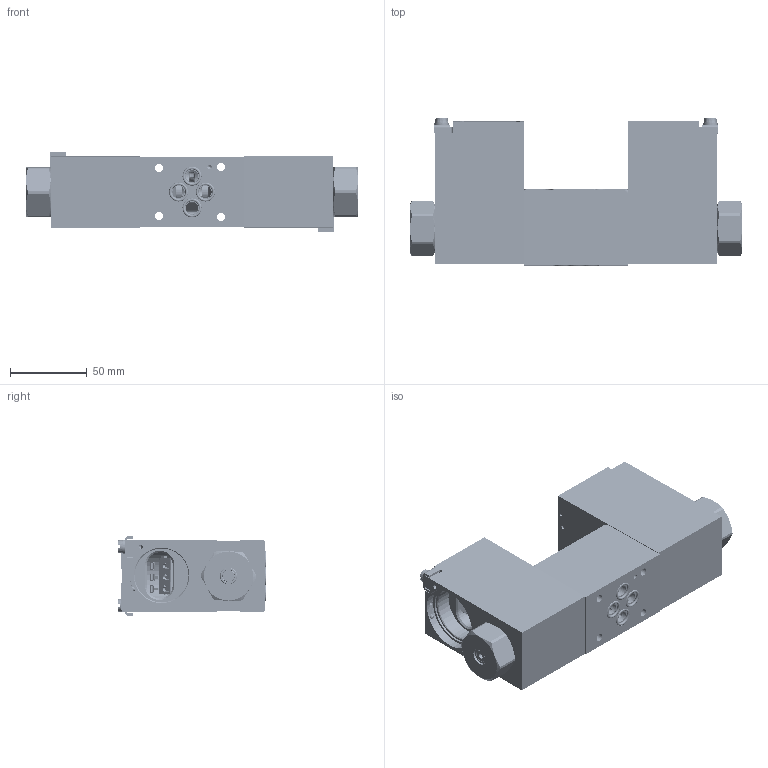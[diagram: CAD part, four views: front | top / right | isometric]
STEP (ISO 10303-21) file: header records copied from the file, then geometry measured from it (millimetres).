
FILE_DESCRIPTION((''),'2;1');
FILE_NAME('30107600_ASM','2023-10-05T',('l.soukupova'),(''),'PRO/ENGINEER BY PARAMETRIC TECHNOLOGY CORPORATION, 2015440','PRO/ENGINEER BY PARAMETRIC TECHNOLOGY CORPORATION, 2015440','');
FILE_SCHEMA(('AUTOMOTIVE_DESIGN { 1 0 10303 214 1 1 1 1 }'));
Products named in the file (60): 31273000; 28420400; 28437100; 28436700_ASM; 28420500; 28436900; 28432000_AF0; 18216900_AF0; 28443101; 28432000_AF1; 18216900_AF1; ORAR00012_201524_AF0; ORAR00012_201524_AF1; STITEK_67X43_CERVENY; DIN_472_15_FST_AF1; ORAR00017_201305_AF0; ORAR00017_201305_AF1; DIN_472_15_FST; 936_7791_AF36; 936_7801_SEST_AF1; 28458501_AF35; 20509500_SEST; 28458600_OBROBENA_AF5_ASM; 936_4660_OS; 1000071334_AF0; 28715800_2_DRAZKY_AF0; 28717500_ASM; 936_4200_AF2; 936_7730; OR1501400_201228_AF1; OR1000400_201176_AF1; 936_5080_AF13_ASM; 20279200_AF14; 28454100_N1_AF0_ASM; 936_7791_AF37; 936_7801_SEST_AF2; 28458501_AF36; 28458600_OBROBENA_AF7_ASM; 936_4200_AF3; OR1501400_201228_AF2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
Assembly tree (68 placements, depth 4):
  30107600_ASM
    31273000
    28436700_ASM
      28420400
      28437100
    28420500
    28436900  x2
    28432000_AF0
    18216900_AF0
    28443101
    28432000_AF1
    18216900_AF1
    ORAR00012_201524_AF0  x2
    ORAR00012_201524_AF1  x2
    STITEK_67X43_CERVENY
    DIN_472_15_FST_AF1
    ORAR00017_201305_AF0
    ORAR00017_201305_AF1
    DIN_472_15_FST
    28454100_N1_AF0_ASM
      28458600_OBROBENA_AF5_ASM
        936_7791_AF36
        936_7801_SEST_AF1
        28458501_AF35
        20509500_SEST
      936_4660_OS
      28717500_ASM
        1000071334_AF0
        28715800_2_DRAZKY_AF0
      936_5080_AF13_ASM
        936_4200_AF2
        936_7730
        OR1501400_201228_AF1
        OR1000400_201176_AF1
      20279200_AF14
    28454100_N1_AF1_ASM
      28458600_OBROBENA_AF7_ASM
        936_7791_AF37
        936_7801_SEST_AF2
        28458501_AF36
        20509500_SEST
      936_4660_OS
      28717500_ASM
        1000071334_AF0
        28715800_2_DRAZKY_AF0
      936_5080_AF14_ASM
        936_4200_AF3
        936_7730
        OR1501400_201228_AF2
        OR1000400_201176_AF2
      20279200_AF21
    EX18-001-D-1-A-012-0_ASM  x2
      1000429498_ASM
        0002710-2-SOLID1
        0002710-3-SOLID1
        0000980-1-SOLID1
        0003649-1-SOLID1
        0000882-1-SOLID1
        0003186-1_0002485-1-SOLID1
        0003186-1_0002629-1-SOLID1
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Bounding box: 215.7 x 96.26 x 51.64 mm (x, y, z)
Volume: 551159.6 mm3; surface area: 180909.6 mm2
Topology: 66 solids, 72 shells, 2769 faces, 7020 edges, 4772 vertices
Faces by surface type: plane 1055, cylinder 925, cone 313, torus 291, bspline 161, sphere 24
Entity records: 142500 total; most frequent: CARTESIAN_POINT 61745, DIRECTION 11615, ORIENTED_EDGE 10144, PRESENTATION_STYLE_ASSIGNMENT 6609, STYLED_ITEM 6082, CURVE_STYLE 5301, EDGE_CURVE 5084, AXIS2_PLACEMENT_3D 4667
